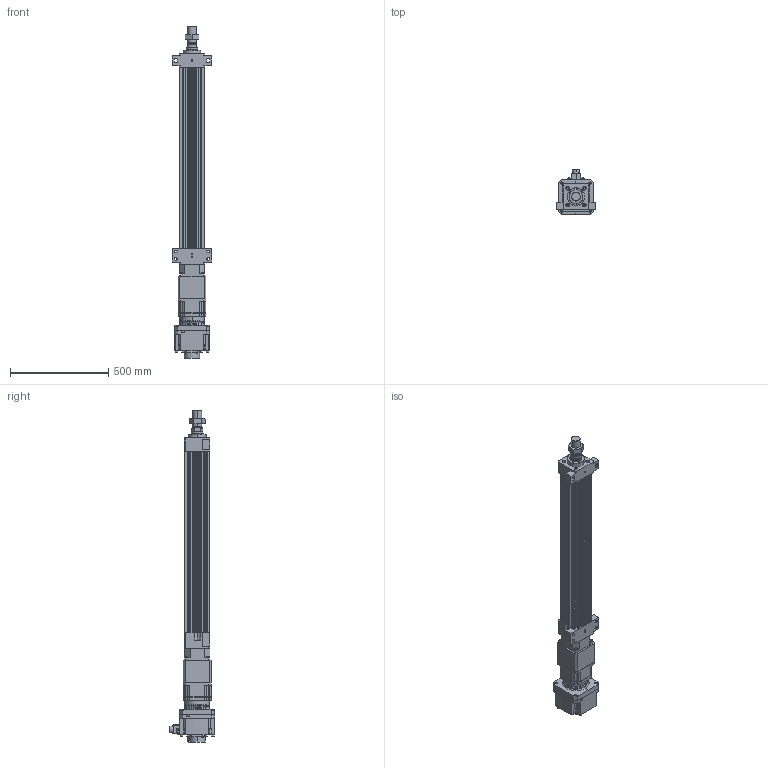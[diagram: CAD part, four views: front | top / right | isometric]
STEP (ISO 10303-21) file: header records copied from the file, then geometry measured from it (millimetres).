
FILE_DESCRIPTION (( 'STEP AP203' ), '1' );
FILE_NAME ('HES130FS(HS)-S700-W020G00-M-FFB.STEP', '2023-01-30T12:50:27', ( 'tms' ), ( '' ), 'SwSTEP 2.0', 'SolidWorks 2013', '' );
FILE_SCHEMA (( 'CONFIG_CONTROL_DESIGN' ));
Length unit declared in the file: millimetre
Products named in the file (9): HES130FS(HS)-S700-W020G00-M-FFB; P0403500801; AB1421; HES130 ROD M ST700; M45X1.5P; P1301500001; HES130-S700-G142-FFB; HG-SR202; AB142-003[HG-SR352]
Assembly tree (8 placements, depth 3):
  HES130FS(HS)-S700-W020G00-M-FFB
    HES130-S700-G142-FFB
    HES130 ROD M ST700
    M45X1.5P
    AB142-003[HG-SR352]
      AB1421
      P1301500001
      P0403500801
    HG-SR202
Bounding box: 200 x 228.85 x 1687.5 mm (x, y, z)
Volume: 14827507.2 mm3; surface area: 1956204.6 mm2
Topology: 4 solids, 22 shells, 1518 faces, 3922 edges, 2545 vertices
Faces by surface type: cylinder 676, plane 600, cone 160, bspline 76, torus 6
Entity records: 55270 total; most frequent: CARTESIAN_POINT 16778, DIRECTION 8032, ORIENTED_EDGE 7750, EDGE_CURVE 3897, AXIS2_PLACEMENT_3D 3016, VERTEX_POINT 2545, VECTOR 2000, LINE 2000
